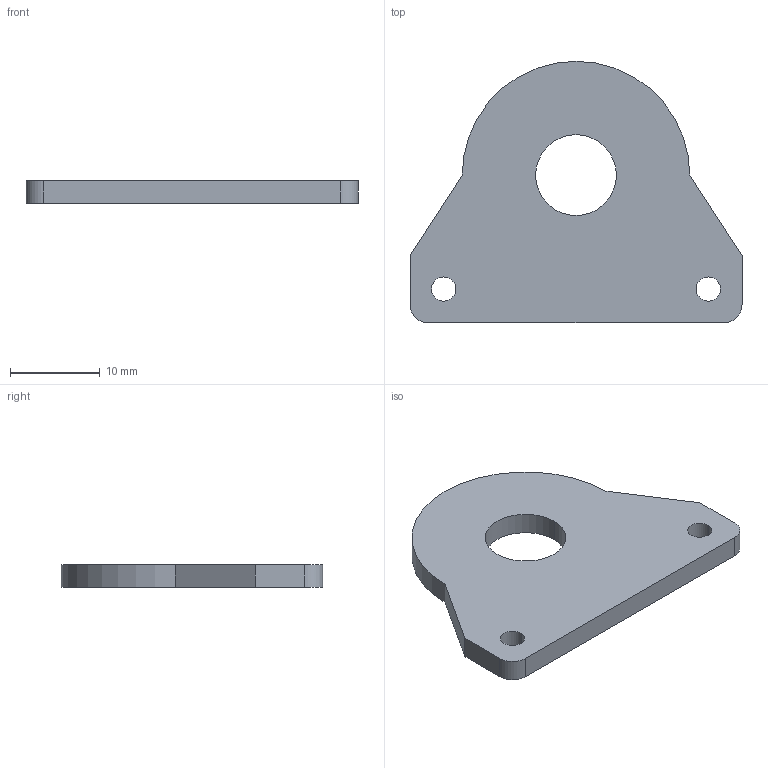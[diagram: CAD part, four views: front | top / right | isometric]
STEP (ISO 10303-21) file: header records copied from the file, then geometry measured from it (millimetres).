
FILE_DESCRIPTION (( 'STEP AP203' ), '1' );
FILE_NAME ('Gimbal Bearing Plate (short) v1.STEP', '2016-10-20T20:48:20', ( 'drhyoo' ), ( '' ), 'SwSTEP 2.0', 'SolidWorks 2016', '' );
FILE_SCHEMA (( 'CONFIG_CONTROL_DESIGN' ));
Length unit declared in the file: millimetre
Products named in the file (1): Gimbal Bearing Plate (short) v1
Bounding box: 37 x 29.13 x 2.5 mm (x, y, z)
Volume: 1831.2 mm3; surface area: 1856.8 mm2
Topology: 1 solids, 1 shells, 16 faces, 42 edges, 28 vertices
Faces by surface type: cylinder 9, plane 7
Entity records: 593 total; most frequent: DIRECTION 94, CARTESIAN_POINT 87, ORIENTED_EDGE 84, EDGE_CURVE 42, AXIS2_PLACEMENT_3D 35, VERTEX_POINT 28, LINE 24, VECTOR 24
